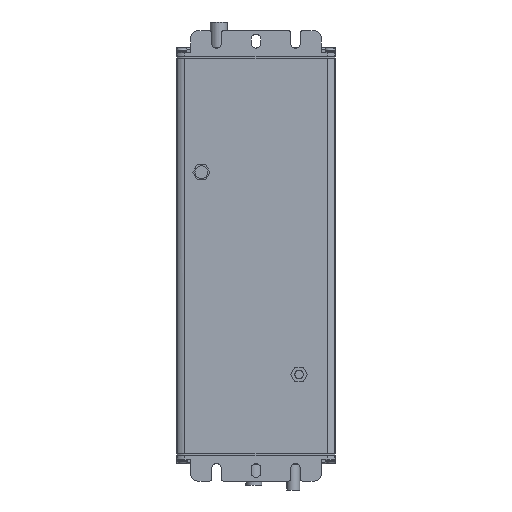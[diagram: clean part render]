
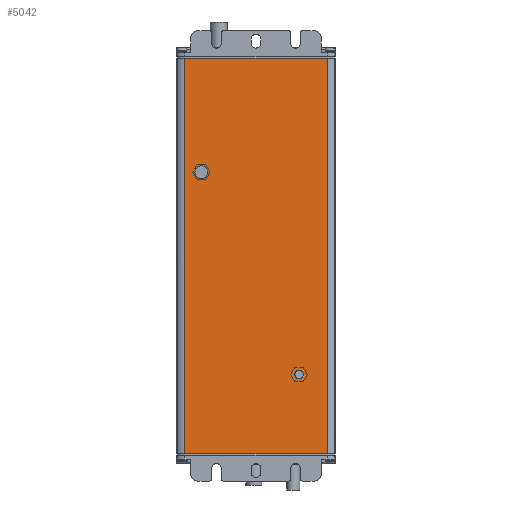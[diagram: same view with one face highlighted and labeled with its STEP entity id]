
A CAD part, front view. The second image highlights one B-rep face of the part: STEP entity #5042.
In plain terms, the highlighted planar face has unit normal (0, -1, 0).
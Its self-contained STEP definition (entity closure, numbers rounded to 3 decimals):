
#1927=CARTESIAN_POINT('',(-30.55,-18.05,-77.5));
#1929=DIRECTION('',(1.,0.,0.));
#1930=VECTOR('',#1929,61.1);
#1931=CARTESIAN_POINT('',(-30.55,-18.05,-77.5));
#1932=LINE('',#1931,#1930);
#2459=CARTESIAN_POINT('',(30.55,-18.05,92.5));
#2461=DIRECTION('',(-1.,0.,0.));
#2462=VECTOR('',#2461,61.1);
#2463=CARTESIAN_POINT('',(30.55,-18.05,92.5));
#2464=LINE('',#2463,#2462);
#3000=DIRECTION('',(0.,0.,1.));
#3001=VECTOR('',#3000,170.);
#3002=CARTESIAN_POINT('',(30.55,-18.05,-77.5));
#3003=LINE('',#3002,#3001);
#3004=CARTESIAN_POINT('',(-23.5,-18.05,43.5));
#3005=DIRECTION('',(0.,-1.,0.));
#3006=DIRECTION('',(1.,0.,0.));
#3007=AXIS2_PLACEMENT_3D('',#3004,#3005,#3006);
#3009=CARTESIAN_POINT('',(-23.5,-18.05,43.5));
#3010=DIRECTION('',(0.,-1.,0.));
#3011=DIRECTION('',(-1.,0.,0.));
#3012=AXIS2_PLACEMENT_3D('',#3009,#3010,#3011);
#3014=CARTESIAN_POINT('',(18.5,-18.05,-43.5));
#3015=DIRECTION('',(0.,-1.,0.));
#3016=DIRECTION('',(0.,0.,-1.));
#3017=AXIS2_PLACEMENT_3D('',#3014,#3015,#3016);
#3019=CARTESIAN_POINT('',(18.5,-18.05,-43.5));
#3020=DIRECTION('',(0.,-1.,0.));
#3021=DIRECTION('',(0.,0.,1.));
#3022=AXIS2_PLACEMENT_3D('',#3019,#3020,#3021);
#3028=DIRECTION('',(0.,0.,-1.));
#3029=VECTOR('',#3028,170.);
#3030=CARTESIAN_POINT('',(-30.55,-18.05,92.5));
#3031=LINE('',#3030,#3029);
#3363=VERTEX_POINT('',#1927);
#3364=CARTESIAN_POINT('',(30.55,-18.05,-77.5));
#3365=VERTEX_POINT('',#3364);
#3612=VERTEX_POINT('',#2459);
#3613=CARTESIAN_POINT('',(-30.55,-18.05,92.5));
#3614=VERTEX_POINT('',#3613);
#3706=CARTESIAN_POINT('',(-20.75,-18.05,43.5));
#3707=CARTESIAN_POINT('',(-26.25,-18.05,43.5));
#3708=VERTEX_POINT('',#3706);
#3709=VERTEX_POINT('',#3707);
#3710=CARTESIAN_POINT('',(18.5,-18.05,-45.331));
#3711=CARTESIAN_POINT('',(18.5,-18.05,-41.669));
#3712=VERTEX_POINT('',#3710);
#3713=VERTEX_POINT('',#3711);
#5018=CARTESIAN_POINT('',(0.25,-18.05,-52.5));
#5019=DIRECTION('',(0.,-1.,0.));
#5020=DIRECTION('',(1.,0.,0.));
#5021=AXIS2_PLACEMENT_3D('',#5018,#5019,#5020);
#5022=PLANE('',#5021);
#5023=ORIENTED_EDGE('',*,*,#3823,.F.);
#5025=ORIENTED_EDGE('',*,*,#5024,.F.);
#5026=ORIENTED_EDGE('',*,*,#4105,.F.);
#5027=ORIENTED_EDGE('',*,*,#5012,.F.);
#5028=EDGE_LOOP('',(#5023,#5025,#5026,#5027));
#5029=FACE_OUTER_BOUND('',#5028,.F.);
#5031=ORIENTED_EDGE('',*,*,#5030,.T.);
#5033=ORIENTED_EDGE('',*,*,#5032,.T.);
#5034=EDGE_LOOP('',(#5031,#5033));
#5035=FACE_BOUND('',#5034,.F.);
#5037=ORIENTED_EDGE('',*,*,#5036,.T.);
#5039=ORIENTED_EDGE('',*,*,#5038,.T.);
#5040=EDGE_LOOP('',(#5037,#5039));
#5041=FACE_BOUND('',#5040,.F.);
#3008=CIRCLE('',#3007,2.75);
#3013=CIRCLE('',#3012,2.75);
#3018=CIRCLE('',#3017,1.831);
#3023=CIRCLE('',#3022,1.831);
#3823=EDGE_CURVE('',#3363,#3365,#1932,.T.);
#4105=EDGE_CURVE('',#3612,#3614,#2464,.T.);
#5012=EDGE_CURVE('',#3365,#3612,#3003,.T.);
#5024=EDGE_CURVE('',#3614,#3363,#3031,.T.);
#5030=EDGE_CURVE('',#3708,#3709,#3008,.T.);
#5032=EDGE_CURVE('',#3709,#3708,#3013,.T.);
#5036=EDGE_CURVE('',#3712,#3713,#3018,.T.);
#5038=EDGE_CURVE('',#3713,#3712,#3023,.T.);
#5042=ADVANCED_FACE('',(#5029,#5035,#5041),#5022,.T.);
